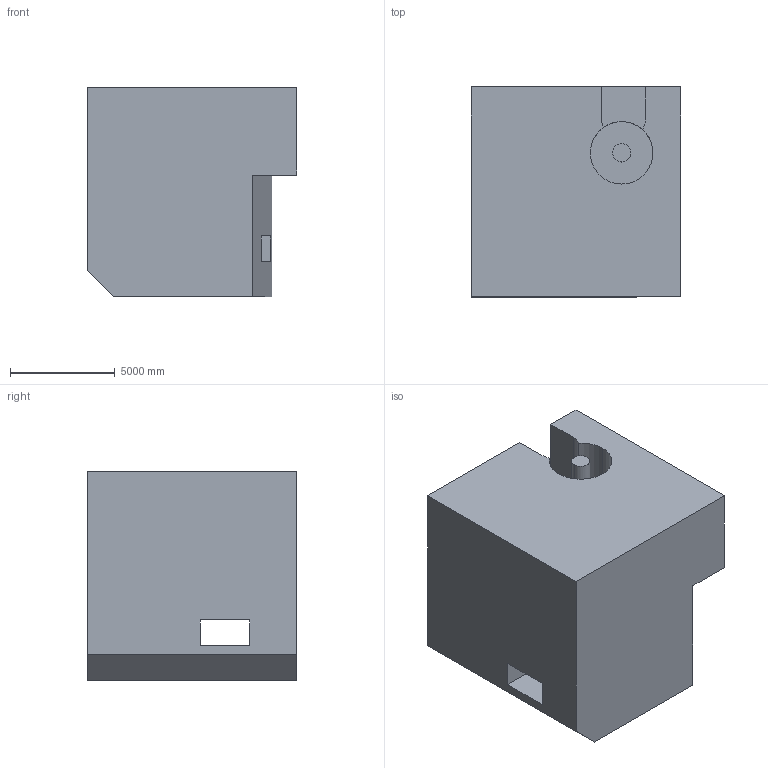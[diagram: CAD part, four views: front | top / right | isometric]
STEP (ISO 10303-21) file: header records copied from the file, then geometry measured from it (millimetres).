
FILE_DESCRIPTION (( 'STEP AP203' ), '1' );
FILE_NAME ('1472.STEP', '2022-08-18T14:41:03', ( 'user' ), ( '' ), 'SwSTEP 2.0', 'SolidWorks 2021', '' );
FILE_SCHEMA (( 'CONFIG_CONTROL_DESIGN' ));
Length unit declared in the file: centimetre
Products named in the file (1): 1472
Bounding box: 10000 x 10000 x 10000 mm (x, y, z)
Volume: 838185703163.7 mm3; surface area: 662713297 mm2
Topology: 1 solids, 1 shells, 25 faces, 66 edges, 44 vertices
Faces by surface type: plane 19, cylinder 6
Entity records: 855 total; most frequent: CARTESIAN_POINT 136, DIRECTION 132, ORIENTED_EDGE 132, EDGE_CURVE 66, LINE 52, VECTOR 52, VERTEX_POINT 44, AXIS2_PLACEMENT_3D 40
